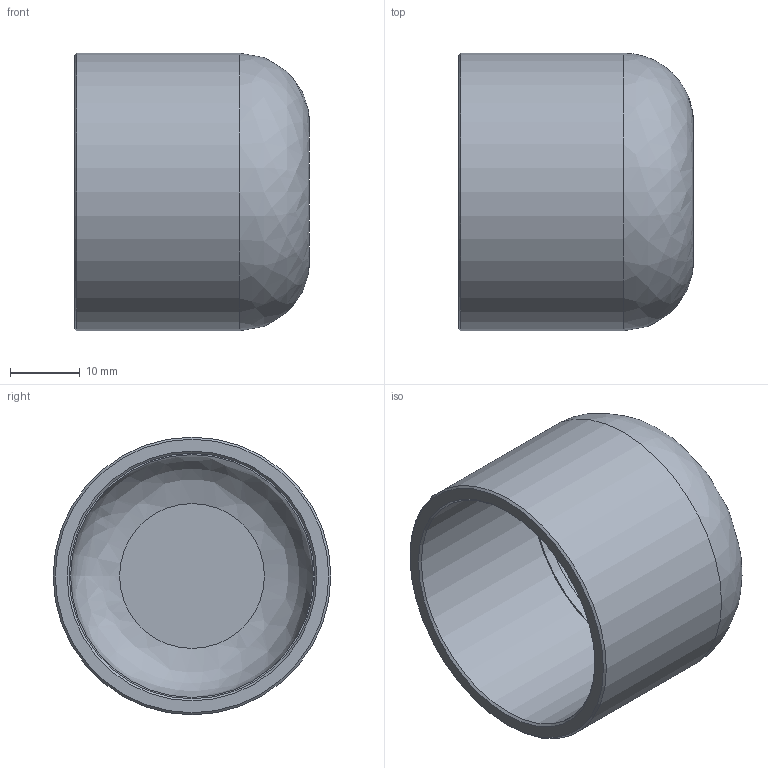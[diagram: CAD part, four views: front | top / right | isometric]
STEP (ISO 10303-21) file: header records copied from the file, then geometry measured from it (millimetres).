
FILE_DESCRIPTION((''),'2;1');
FILE_NAME('G:\SANHA-Ternat\Technik\Management\Bouwmaten + markeringen\z-maattekeningen 3D\29000s\29301138_3d.stp','2017-08-07T16:22:46',('vdvijverd'),(''),'Autodesk Inventor 2009','Autodesk Inventor 2009','');
FILE_SCHEMA(('AUTOMOTIVE_DESIGN { 1 0 10303 214 1 1 1 1 }'));
Length unit declared in the file: millimetre
Products named in the file (1): 29301138_3d
Bounding box: 33.6 x 39.7 x 39.7 mm (x, y, z)
Volume: 10148.8 mm3; surface area: 9137.6 mm2
Topology: 1 solids, 1 shells, 11 faces, 17 edges, 10 vertices
Faces by surface type: plane 4, cylinder 3, cone 2, bspline 2
Full cylindrical faces by diameter (mm): 34.705 x1, 35.105 x1, 39.705 x1
Entity records: 320 total; most frequent: CARTESIAN_POINT 120, DIRECTION 40, AXIS2_PLACEMENT_3D 20, ORIENTED_EDGE 20, EDGE_LOOP 20, FACE_OUTER_BOUND 11, ADVANCED_FACE 11, VERTEX_POINT 10
